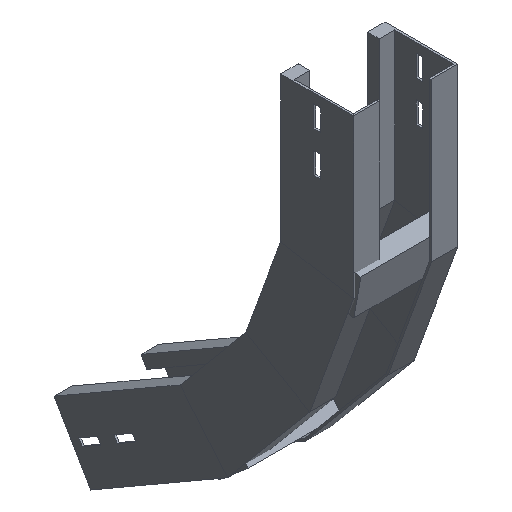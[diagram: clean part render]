
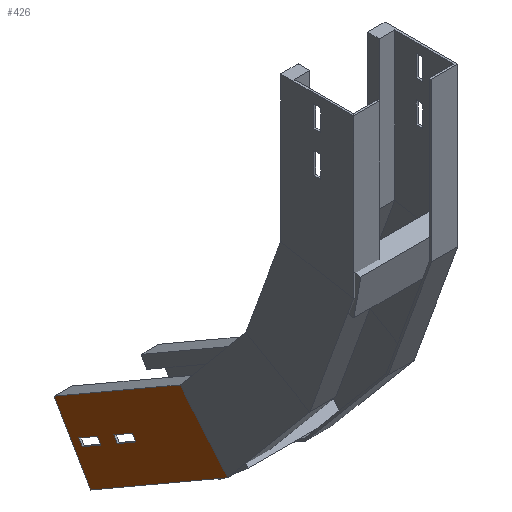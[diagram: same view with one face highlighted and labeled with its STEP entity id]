
A CAD part, isometric view. The second image highlights one B-rep face of the part: STEP entity #426.
In plain terms, the highlighted planar face has unit normal (-1, 0, 0) as drawn and (1, 0, 0) by its records, which use the part's own axes.
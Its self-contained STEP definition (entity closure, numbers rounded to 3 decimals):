
#1 = ORIENTED_EDGE ( 'NONE', *, *, #1307, .T. ) ;
#40 = VERTEX_POINT ( 'NONE', #707 ) ;
#64 = DIRECTION ( 'NONE',  ( 0., 0., -1. ) ) ;
#75 = CARTESIAN_POINT ( 'NONE',  ( 0., 41., -9.835 ) ) ;
#81 = ORIENTED_EDGE ( 'NONE', *, *, #1175, .T. ) ;
#86 = LINE ( 'NONE', #947, #554 ) ;
#91 = CARTESIAN_POINT ( 'NONE',  ( 0., 75., -149.775 ) ) ;
#122 = LINE ( 'NONE', #1684, #1008 ) ;
#132 = EDGE_CURVE ( 'NONE', #258, #231, #1640, .T. ) ;
#134 = DIRECTION ( 'NONE',  ( 0., 0., 1. ) ) ;
#178 = DIRECTION ( 'NONE',  ( 0., 0., -1. ) ) ;
#192 = FACE_BOUND ( 'NONE', #1674, .T. ) ;
#231 = VERTEX_POINT ( 'NONE', #1159 ) ;
#237 = LINE ( 'NONE', #1538, #716 ) ;
#252 = VERTEX_POINT ( 'NONE', #1029 ) ;
#258 = VERTEX_POINT ( 'NONE', #1174 ) ;
#298 = LINE ( 'NONE', #515, #776 ) ;
#317 = DIRECTION ( 'NONE',  ( 0., -1., 0. ) ) ;
#328 = DIRECTION ( 'NONE',  ( 0., 0., 1. ) ) ;
#338 = VECTOR ( 'NONE', #1587, 1000. ) ;
#344 = VECTOR ( 'NONE', #178, 1000. ) ;
#350 = VERTEX_POINT ( 'NONE', #891 ) ;
#353 = DIRECTION ( 'NONE',  ( 0., 0., -1. ) ) ;
#424 = LINE ( 'NONE', #1337, #1479 ) ;
#426 = ADVANCED_FACE ( 'NONE', ( #1066, #1603, #192 ), #451, .F. ) ;
#432 = DIRECTION ( 'NONE',  ( 0., -0.985, -0.174 ) ) ;
#451 = PLANE ( 'NONE',  #850 ) ;
#472 = CARTESIAN_POINT ( 'NONE',  ( 0., 41., -31.835 ) ) ;
#487 = ORIENTED_EDGE ( 'NONE', *, *, #132, .F. ) ;
#494 = VECTOR ( 'NONE', #939, 1000. ) ;
#506 = DIRECTION ( 'NONE',  ( 0., 0., 1. ) ) ;
#515 = CARTESIAN_POINT ( 'NONE',  ( 0., 41., -73.505 ) ) ;
#554 = VECTOR ( 'NONE', #317, 1000. ) ;
#556 = DIRECTION ( 'NONE',  ( -1., 0., 0. ) ) ;
#561 = ORIENTED_EDGE ( 'NONE', *, *, #624, .T. ) ;
#577 = ORIENTED_EDGE ( 'NONE', *, *, #1533, .T. ) ;
#600 = ORIENTED_EDGE ( 'NONE', *, *, #1356, .T. ) ;
#622 = VERTEX_POINT ( 'NONE', #985 ) ;
#624 = EDGE_CURVE ( 'NONE', #1382, #1116, #1255, .T. ) ;
#638 = VECTOR ( 'NONE', #353, 1000. ) ;
#678 = LINE ( 'NONE', #1319, #774 ) ;
#704 = VERTEX_POINT ( 'NONE', #883 ) ;
#707 = CARTESIAN_POINT ( 'NONE',  ( 0., 34., -31.835 ) ) ;
#716 = VECTOR ( 'NONE', #1527, 1000. ) ;
#720 = CARTESIAN_POINT ( 'NONE',  ( 0., 41., -73.505 ) ) ;
#764 = ORIENTED_EDGE ( 'NONE', *, *, #1085, .T. ) ;
#774 = VECTOR ( 'NONE', #134, 1000. ) ;
#776 = VECTOR ( 'NONE', #1026, 1000. ) ;
#850 = AXIS2_PLACEMENT_3D ( 'NONE', #1611, #556, #328 ) ;
#876 = EDGE_LOOP ( 'NONE', ( #1555, #561, #1445, #600 ) ) ;
#883 = CARTESIAN_POINT ( 'NONE',  ( 0., 34., -9.835 ) ) ;
#891 = CARTESIAN_POINT ( 'NONE',  ( 0., 41., -9.835 ) ) ;
#896 = EDGE_CURVE ( 'NONE', #231, #1681, #935, .T. ) ;
#914 = EDGE_CURVE ( 'NONE', #1681, #1590, #424, .T. ) ;
#935 = LINE ( 'NONE', #1185, #338 ) ;
#936 = ORIENTED_EDGE ( 'NONE', *, *, #896, .F. ) ;
#939 = DIRECTION ( 'NONE',  ( 0., 1., 0. ) ) ;
#947 = CARTESIAN_POINT ( 'NONE',  ( 0., 41., -31.835 ) ) ;
#985 = CARTESIAN_POINT ( 'NONE',  ( 0., 34., -51.505 ) ) ;
#994 = CARTESIAN_POINT ( 'NONE',  ( 0., 41., -51.505 ) ) ;
#996 = DIRECTION ( 'NONE',  ( 0., 1., 0. ) ) ;
#1001 = CARTESIAN_POINT ( 'NONE',  ( 0., 0., 0. ) ) ;
#1008 = VECTOR ( 'NONE', #506, 1000. ) ;
#1021 = EDGE_LOOP ( 'NONE', ( #936, #487, #577, #1630 ) ) ;
#1026 = DIRECTION ( 'NONE',  ( 0., -1., 0. ) ) ;
#1029 = CARTESIAN_POINT ( 'NONE',  ( 0., 34., -73.505 ) ) ;
#1048 = CARTESIAN_POINT ( 'NONE',  ( 0., 41., -51.505 ) ) ;
#1066 = FACE_BOUND ( 'NONE', #876, .T. ) ;
#1085 = EDGE_CURVE ( 'NONE', #1313, #40, #86, .T. ) ;
#1101 = CARTESIAN_POINT ( 'NONE',  ( 0., 0., 0. ) ) ;
#1109 = LINE ( 'NONE', #1101, #344 ) ;
#1110 = LINE ( 'NONE', #1500, #1375 ) ;
#1116 = VERTEX_POINT ( 'NONE', #720 ) ;
#1149 = EDGE_CURVE ( 'NONE', #350, #1313, #1110, .T. ) ;
#1159 = CARTESIAN_POINT ( 'NONE',  ( 0., 75., 0. ) ) ;
#1174 = CARTESIAN_POINT ( 'NONE',  ( 0., 0., 0. ) ) ;
#1175 = EDGE_CURVE ( 'NONE', #704, #350, #1225, .T. ) ;
#1185 = CARTESIAN_POINT ( 'NONE',  ( 0., 75., 0. ) ) ;
#1219 = EDGE_CURVE ( 'NONE', #622, #1382, #237, .T. ) ;
#1225 = LINE ( 'NONE', #75, #494 ) ;
#1255 = LINE ( 'NONE', #994, #638 ) ;
#1307 = EDGE_CURVE ( 'NONE', #40, #704, #122, .T. ) ;
#1313 = VERTEX_POINT ( 'NONE', #472 ) ;
#1319 = CARTESIAN_POINT ( 'NONE',  ( 0., 34., -51.505 ) ) ;
#1337 = CARTESIAN_POINT ( 'NONE',  ( 0., 27.875, -158.085 ) ) ;
#1341 = ORIENTED_EDGE ( 'NONE', *, *, #1149, .T. ) ;
#1356 = EDGE_CURVE ( 'NONE', #252, #622, #678, .T. ) ;
#1375 = VECTOR ( 'NONE', #64, 1000. ) ;
#1382 = VERTEX_POINT ( 'NONE', #1048 ) ;
#1445 = ORIENTED_EDGE ( 'NONE', *, *, #1451, .T. ) ;
#1451 = EDGE_CURVE ( 'NONE', #1116, #252, #298, .T. ) ;
#1455 = VECTOR ( 'NONE', #996, 1000. ) ;
#1469 = CARTESIAN_POINT ( 'NONE',  ( 0., 0., -163. ) ) ;
#1479 = VECTOR ( 'NONE', #432, 1000. ) ;
#1500 = CARTESIAN_POINT ( 'NONE',  ( 0., 41., -9.835 ) ) ;
#1527 = DIRECTION ( 'NONE',  ( 0., 1., 0. ) ) ;
#1533 = EDGE_CURVE ( 'NONE', #258, #1590, #1109, .T. ) ;
#1538 = CARTESIAN_POINT ( 'NONE',  ( 0., 41., -51.505 ) ) ;
#1555 = ORIENTED_EDGE ( 'NONE', *, *, #1219, .T. ) ;
#1587 = DIRECTION ( 'NONE',  ( 0., 0., -1. ) ) ;
#1590 = VERTEX_POINT ( 'NONE', #1469 ) ;
#1603 = FACE_OUTER_BOUND ( 'NONE', #1021, .T. ) ;
#1611 = CARTESIAN_POINT ( 'NONE',  ( 0., 0., 0. ) ) ;
#1630 = ORIENTED_EDGE ( 'NONE', *, *, #914, .F. ) ;
#1640 = LINE ( 'NONE', #1001, #1455 ) ;
#1674 = EDGE_LOOP ( 'NONE', ( #81, #1341, #764, #1 ) ) ;
#1681 = VERTEX_POINT ( 'NONE', #91 ) ;
#1684 = CARTESIAN_POINT ( 'NONE',  ( 0., 34., -9.835 ) ) ;
